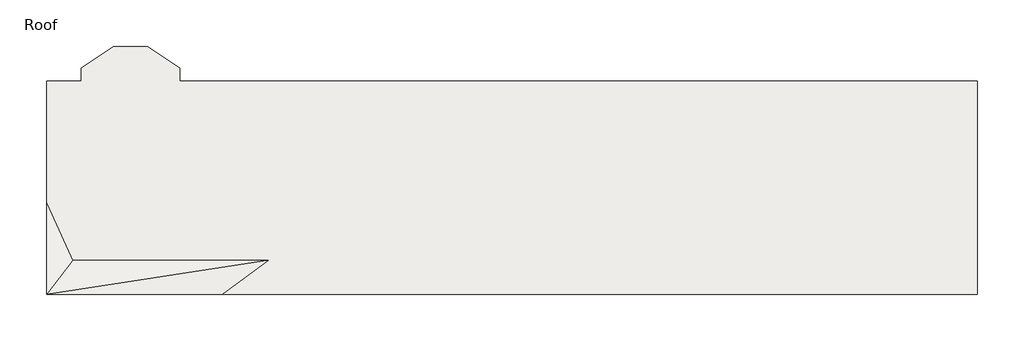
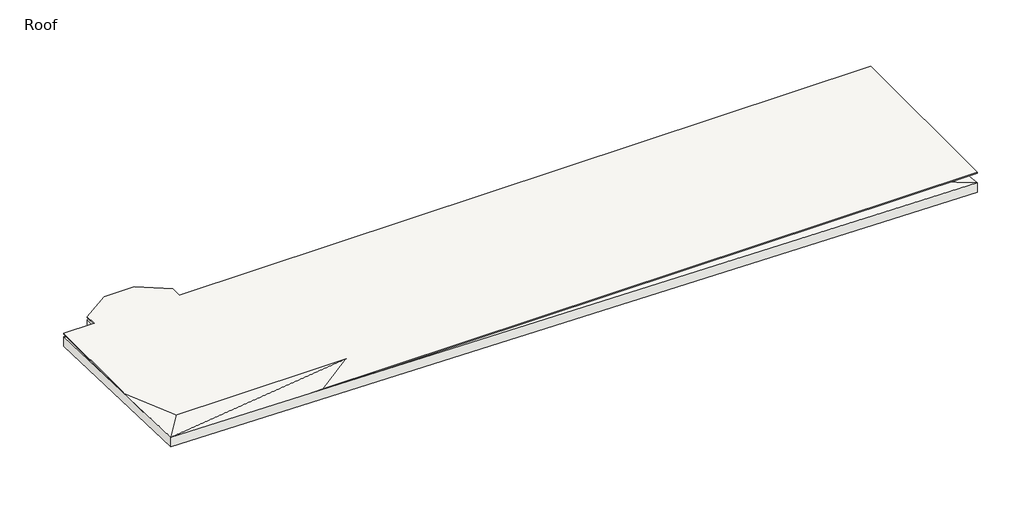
# One storey: 2 roofs.
"""IFC4 building model written with IfcOpenShell, lengths in millimetres."""

from ifc_helpers import new_model, si_unit, frame, origin, place, context, project, spatial, polyline, outline, extrude, faceted_brep, element, save

model = new_model("IFC4")

# Units and contexts
model_context = context("Model", 3, world=origin())
ifc_project = project(units=[si_unit("LENGTHUNIT", "METRE", prefix="MILLI")], contexts=[model_context])

# Site, building, storey
site = spatial("IfcSite", under=ifc_project)
building = spatial("IfcBuilding", under=site)
storey = spatial("IfcBuildingStorey", under=building, Name="Roof", Elevation=10210.8)

# Roofs
placement = place(None, origin())
element("IfcRoof", 1, ObjectType="Generic - 1\"", at=placement, inside=storey, context=model_context, shape_type="SweptSolid", body=[
    extrude(outline(polyline([(-20318.5535292, -2103.4064015), (-20318.5535292, 3509.9935985), (-19404.130434, 3509.9935985), (-19404.130434, 3856.9206963), (-18562.8172586, 4424.3935985), (-17654.6436095, 4424.3935985), (-16813.330434, 3856.9206963), (-16813.330434, 3509.9935985), (4154.3464708, 3509.9935985), (4154.3464708, -2103.4064015), (-20318.5535292, -2103.4064015)])), frame((0.0, 0.0, 10668.0), z_axis=(0.0, 0.0, 1.0), x_axis=(1.0, 0.0, 0.0)), (0.0, 0.0, 1.0), 25.4),
])
element("IfcRoof", 2, ObjectType="Generic - 12\"", at=placement, inside=storey, context=model_context, shape_type="Brep", body=[
    faceted_brep([(-20318.5535292, 3509.9935985, 10591.8), (-20318.5535292, 3509.9935985, 10287.0), (-20318.5535292, -2103.4064015, 10464.8), (-20318.5535292, -2103.4064015, 10769.6), (-19404.130434, 3509.9935985, 10591.8), (-19404.130434, 3509.9935985, 10287.0), (4154.3464708, -2103.4064015, 10058.4), (4154.3464708, -2103.4064015, 10363.2), (4154.3464708, -1450.3846403, 9956.8), (4154.3464708, 3509.9935985, 10287.0), (4154.3464708, 3509.9935985, 10591.8), (4154.3464708, -1450.3846403, 10261.6), (-19404.130434, 3856.9206963, 10591.8), (-19404.130434, 3856.9206963, 10287.0), (-18562.8172586, 4424.3935985, 10591.8), (-18562.8172586, 4424.3935985, 10287.0), (-17654.6436095, 4424.3935985, 10591.8), (-17654.6436095, 4424.3935985, 10287.0), (-16813.330434, 3856.9206963, 10591.8), (-16813.330434, 3856.9206963, 10287.0), (-16813.330434, 3509.9935985, 10591.8), (-16813.330434, 3509.9935985, 10287.0), (-970.4842409, 879.3357753, 10515.6), (-970.4842409, 879.3357753, 10210.8), (-18039.2842409, 879.3357753, 10515.6), (-18039.2842409, 879.3357753, 10210.8)], [[[0, 1, 2, 3]], [[4, 5, 1, 0]], [[3, 2, 6, 7]], [[7, 6, 8, 9, 10, 11]], [[12, 13, 5, 4]], [[14, 15, 13, 12]], [[16, 17, 15, 14]], [[18, 19, 17, 16]], [[20, 21, 19, 18]], [[10, 9, 21, 20]], [[3, 7, 22]], [[2, 23, 6]], [[3, 24, 0]], [[10, 20, 4, 0, 24, 22]], [[10, 22, 11]], [[20, 18, 16, 14, 12, 4]], [[2, 1, 25]], [[9, 23, 25, 1, 5, 21]], [[9, 8, 23]], [[21, 5, 13, 15, 17, 19]], [[3, 22, 24]], [[7, 11, 22]], [[2, 25, 23]], [[6, 23, 8]]]),
])

save(model, "model.ifc")
